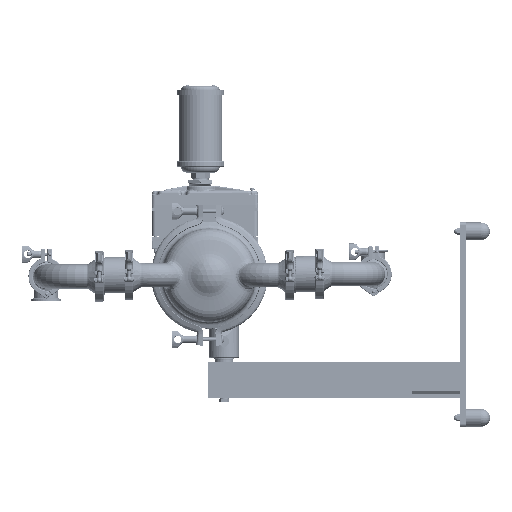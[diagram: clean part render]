
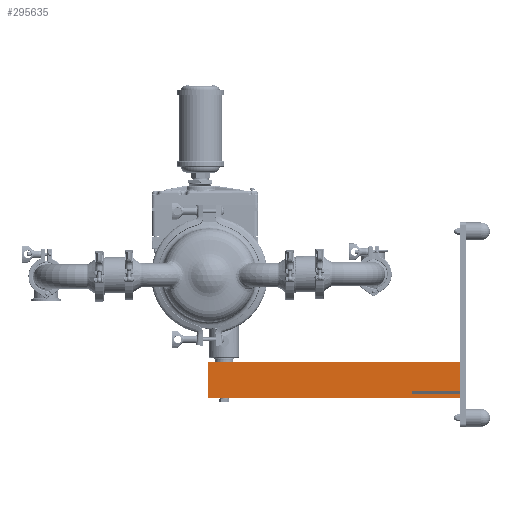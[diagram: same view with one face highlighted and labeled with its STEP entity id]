
A CAD part, left-side view. The second image highlights one B-rep face of the part: STEP entity #295635.
In plain terms, the highlighted planar face has unit normal (-1, 0, 0).
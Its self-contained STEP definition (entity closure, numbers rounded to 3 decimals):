
#1476 = VECTOR ( 'NONE', #32708, 39.37 ) ;
#9221 = CARTESIAN_POINT ( 'NONE',  ( -1., -0.157, -7.236 ) ) ;
#10337 = VECTOR ( 'NONE', #54871, 39.37 ) ;
#11650 = DIRECTION ( 'NONE',  ( 0., 1., 0. ) ) ;
#14518 = LINE ( 'NONE', #191769, #74847 ) ;
#32708 = DIRECTION ( 'NONE',  ( 0., 1., 0. ) ) ;
#37801 = DIRECTION ( 'NONE',  ( 0., 1., 0. ) ) ;
#41388 = EDGE_CURVE ( 'NONE', #211903, #559926, #275743, .T. ) ;
#45672 = ORIENTED_EDGE ( 'NONE', *, *, #259605, .F. ) ;
#54871 = DIRECTION ( 'NONE',  ( 0., 0., -1. ) ) ;
#61398 = VERTEX_POINT ( 'NONE', #295661 ) ;
#74847 = VECTOR ( 'NONE', #104583, 39.37 ) ;
#79601 = ORIENTED_EDGE ( 'NONE', *, *, #567803, .T. ) ;
#86666 = EDGE_CURVE ( 'NONE', #161977, #332684, #392449, .T. ) ;
#101687 = EDGE_CURVE ( 'NONE', #332684, #569091, #564396, .T. ) ;
#104583 = DIRECTION ( 'NONE',  ( 0., 0., -1. ) ) ;
#106162 = ORIENTED_EDGE ( 'NONE', *, *, #447954, .F. ) ;
#115647 = CARTESIAN_POINT ( 'NONE',  ( -1., -20.822, -9.626 ) ) ;
#119248 = LINE ( 'NONE', #473714, #424132 ) ;
#128060 = AXIS2_PLACEMENT_3D ( 'NONE', #9221, #473767, #206472 ) ;
#130359 = CARTESIAN_POINT ( 'NONE',  ( -1., -20.822, -7.236 ) ) ;
#150175 = CARTESIAN_POINT ( 'NONE',  ( -1., 0.093, -10.236 ) ) ;
#154912 = CARTESIAN_POINT ( 'NONE',  ( -1., -20.822, -10.236 ) ) ;
#161977 = VERTEX_POINT ( 'NONE', #483969 ) ;
#164154 = EDGE_LOOP ( 'NONE', ( #338826, #233387, #409553, #45672, #359373, #79601, #106162, #288199 ) ) ;
#185603 = VECTOR ( 'NONE', #11650, 39.37 ) ;
#191769 = CARTESIAN_POINT ( 'NONE',  ( -1., -20.822, -7.236 ) ) ;
#206472 = DIRECTION ( 'NONE',  ( 0., 0., 1. ) ) ;
#211903 = VERTEX_POINT ( 'NONE', #514939 ) ;
#228378 = VECTOR ( 'NONE', #252392, 39.37 ) ;
#230082 = FACE_OUTER_BOUND ( 'NONE', #164154, .T. ) ;
#233387 = ORIENTED_EDGE ( 'NONE', *, *, #573881, .T. ) ;
#240122 = VERTEX_POINT ( 'NONE', #130359 ) ;
#240176 = LINE ( 'NONE', #150175, #516447 ) ;
#252392 = DIRECTION ( 'NONE',  ( 0., 1., 0. ) ) ;
#259605 = EDGE_CURVE ( 'NONE', #301904, #211903, #295966, .T. ) ;
#273234 = CARTESIAN_POINT ( 'NONE',  ( -1., -20.822, -9.876 ) ) ;
#275743 = LINE ( 'NONE', #357250, #10337 ) ;
#278081 = DIRECTION ( 'NONE',  ( 0., 0., 1. ) ) ;
#288199 = ORIENTED_EDGE ( 'NONE', *, *, #101687, .F. ) ;
#295635 = ADVANCED_FACE ( 'NONE', ( #230082 ), #407323, .T. ) ;
#295661 = CARTESIAN_POINT ( 'NONE',  ( -1., 0.093, -7.236 ) ) ;
#295966 = LINE ( 'NONE', #519631, #228378 ) ;
#301904 = VERTEX_POINT ( 'NONE', #115647 ) ;
#332684 = VERTEX_POINT ( 'NONE', #423858 ) ;
#338826 = ORIENTED_EDGE ( 'NONE', *, *, #86666, .F. ) ;
#357250 = CARTESIAN_POINT ( 'NONE',  ( -1., -16.822, -9.626 ) ) ;
#359373 = ORIENTED_EDGE ( 'NONE', *, *, #372902, .F. ) ;
#372902 = EDGE_CURVE ( 'NONE', #240122, #301904, #14518, .T. ) ;
#392449 = LINE ( 'NONE', #482484, #567662 ) ;
#407323 = PLANE ( 'NONE',  #128060 ) ;
#409553 = ORIENTED_EDGE ( 'NONE', *, *, #41388, .F. ) ;
#423858 = CARTESIAN_POINT ( 'NONE',  ( -1., -20.822, -10.236 ) ) ;
#424132 = VECTOR ( 'NONE', #37801, 39.37 ) ;
#447954 = EDGE_CURVE ( 'NONE', #569091, #61398, #240176, .T. ) ;
#456182 = LINE ( 'NONE', #273234, #185603 ) ;
#473714 = CARTESIAN_POINT ( 'NONE',  ( -1., -20.822, -7.236 ) ) ;
#473767 = DIRECTION ( 'NONE',  ( -1., 0., 0. ) ) ;
#482451 = CARTESIAN_POINT ( 'NONE',  ( -1., -16.822, -9.876 ) ) ;
#482484 = CARTESIAN_POINT ( 'NONE',  ( -1., -20.822, -9.876 ) ) ;
#483969 = CARTESIAN_POINT ( 'NONE',  ( -1., -20.822, -9.876 ) ) ;
#514939 = CARTESIAN_POINT ( 'NONE',  ( -1., -16.822, -9.626 ) ) ;
#516447 = VECTOR ( 'NONE', #278081, 39.37 ) ;
#519631 = CARTESIAN_POINT ( 'NONE',  ( -1., -20.822, -9.626 ) ) ;
#558913 = CARTESIAN_POINT ( 'NONE',  ( -1., 0.093, -10.236 ) ) ;
#559926 = VERTEX_POINT ( 'NONE', #482451 ) ;
#564396 = LINE ( 'NONE', #154912, #1476 ) ;
#567662 = VECTOR ( 'NONE', #569625, 39.37 ) ;
#567803 = EDGE_CURVE ( 'NONE', #240122, #61398, #119248, .T. ) ;
#569091 = VERTEX_POINT ( 'NONE', #558913 ) ;
#569625 = DIRECTION ( 'NONE',  ( 0., 0., -1. ) ) ;
#573881 = EDGE_CURVE ( 'NONE', #161977, #559926, #456182, .T. ) ;
